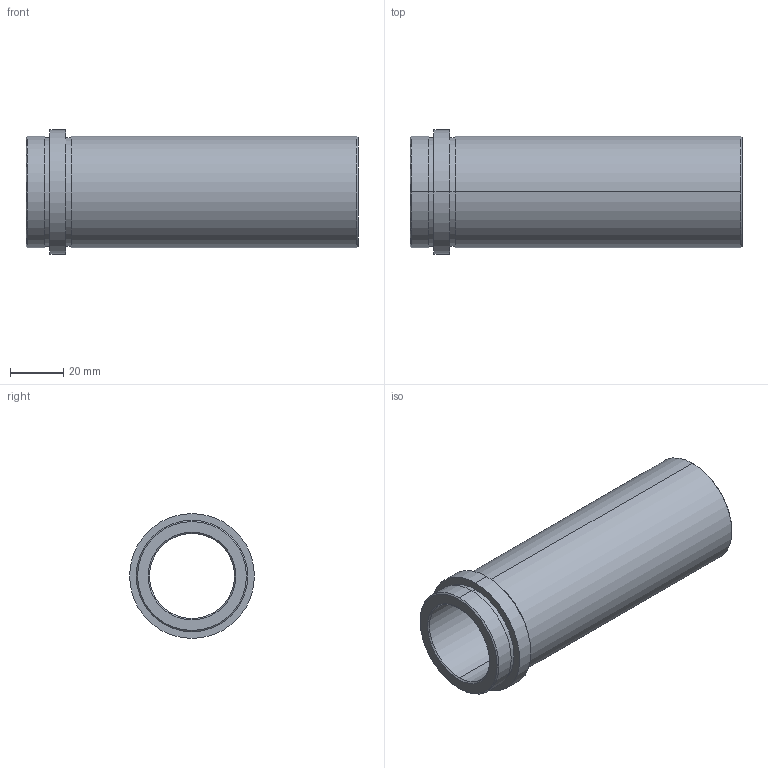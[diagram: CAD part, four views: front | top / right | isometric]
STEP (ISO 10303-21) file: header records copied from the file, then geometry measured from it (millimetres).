
FILE_DESCRIPTION( ( 'STEP AP203' ), '1' );
FILE_NAME( 'C:/Projects/D21 - 32x116.step', '2002-12-31T22:53:27', ( ' ' ), ( ' ' ), 'XStep 1.0', ' ', ' ' );
FILE_SCHEMA( ( 'CONFIG_CONTROL_DESIGN' ) );
Length unit declared in the file: metre
Products named in the file (1): 1
Bounding box: 125 x 47 x 47 mm (x, y, z)
Volume: 74427.5 mm3; surface area: 31127.4 mm2
Topology: 1 solids, 1 shells, 26 faces, 52 edges, 32 vertices
Faces by surface type: revolution 20, bspline 6
Entity records: 773 total; most frequent: CARTESIAN_POINT 169, DIRECTION 106, ORIENTED_EDGE 104, EDGE_CURVE 52, AXIS2_PLACEMENT_3D 33, EDGE_LOOP 32, VERTEX_POINT 32, CIRCLE 32
